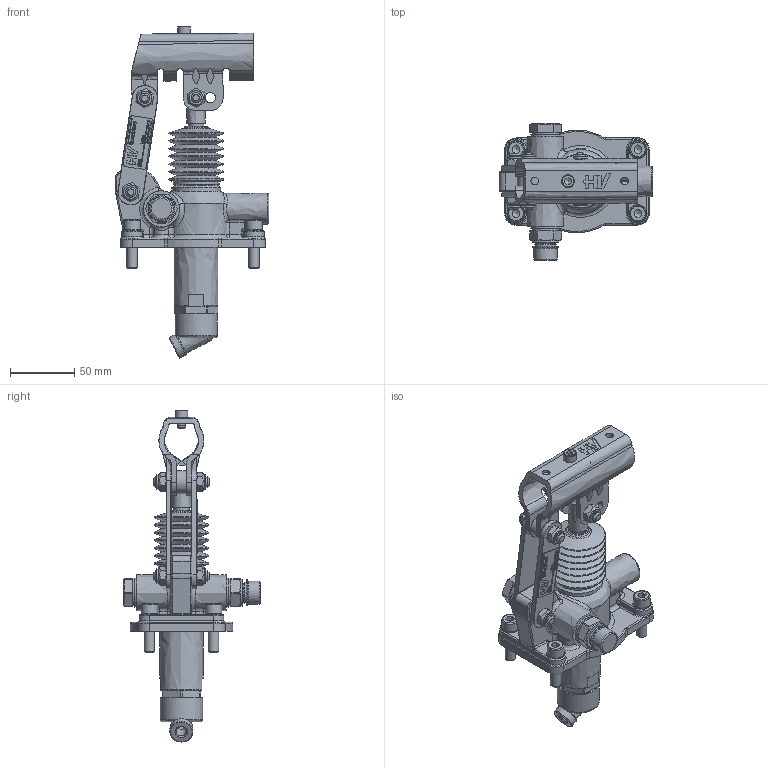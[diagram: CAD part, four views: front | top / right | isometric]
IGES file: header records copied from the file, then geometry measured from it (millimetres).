
Global section: file name: No Iges File Name specified; native system: Autodesk Inventor 2013; preprocessor: AutoDesk Inventor Iges Exporter R2013; author: christian.scardovi; date: 20240228.073202; units: millimetre
Bounding box: 119.5 x 106.5 x 258.81 mm (x, y, z)
Volume: 386857.5 mm3; surface area: 109570 mm2
Topology: 3 solids, 3 shells, 1373 faces, 3481 edges, 2204 vertices
Faces by surface type: bspline 1373
